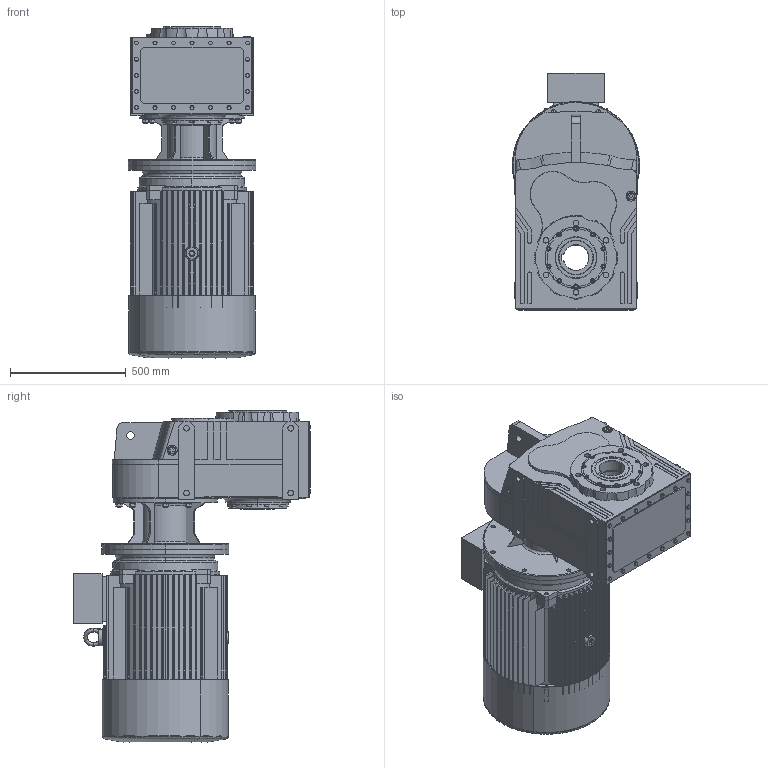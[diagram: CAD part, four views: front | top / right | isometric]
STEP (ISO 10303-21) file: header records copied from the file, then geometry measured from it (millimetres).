
FILE_DESCRIPTION (( 'STEP AP203' ), '1' );
FILE_NAME ('DV872-DV873-M3-280S.STEP', '2019-07-23T07:38:30', ( '' ), ( '' ), 'SwSTEP 2.0', 'SolidWorks 2012', '' );
FILE_SCHEMA (( 'CONFIG_CONTROL_DESIGN' ));
Products named in the file (13): Y2-280S-4,6 B5; 280ﾁｧ+ﾀ_-ｼ+､; DV872-DV873-M3-280S; Y2-280-4-ｦﾈﾁﾂ-ｩﾃ_-ｼ+､; Y2-280S+ｷﾎｨB5_-ｼ+､; Y2-280ｦｾﾂ-ｩﾃ_-ｼ+､; Y2-280S.M-4.6.8ﾍﾟ_-ｼ+､; Y2-280-4.6.8ﾀiﾍ_-ｼ+､; Ã¦Íß¦ð-Ô©ÃY2-280-4_-¼+¤; DN_87_3_0_A-B28_B5_ML23A_0_0_0_0_0_0_0_0_0_0_0_0_M1; 83B280B5_Varsayìlan; D873_Varsayìlan; ML23A_Varsayìlan
Assembly tree (12 placements, depth 3):
  DV872-DV873-M3-280S
    DN_87_3_0_A-B28_B5_ML23A_0_0_0_0_0_0_0_0_0_0_0_0_M1
      D873_Varsayìlan
      83B280B5_Varsayìlan
      ML23A_Varsayìlan
    Y2-280S-4,6 B5
      Ã¦Íß¦ð-Ô©ÃY2-280-4_-¼+¤
      Y2-280S.M-4.6.8ﾍﾟ_-ｼ+､
      Y2-280-4.6.8ﾀiﾍ_-ｼ+､
      Y2-280ｦｾﾂ-ｩﾃ_-ｼ+､
      Y2-280S+ｷﾎｨB5_-ｼ+､
      Y2-280-4-ｦﾈﾁﾂ-ｩﾃ_-ｼ+､
      280ﾁｧ+ﾀ_-ｼ+､
Bounding box: 550 x 1027.4 x 1434.03 mm (x, y, z)
Volume: 175395603.8 mm3; surface area: 10337509.2 mm2
Topology: 35 solids, 35 shells, 2418 faces, 6091 edges, 3891 vertices
Faces by surface type: plane 1259, cylinder 705, cone 360, bspline 90, torus 4
Entity records: 79097 total; most frequent: CARTESIAN_POINT 18855, DIRECTION 12570, ORIENTED_EDGE 12178, EDGE_CURVE 6089, AXIS2_PLACEMENT_3D 4688, VERTEX_POINT 3891, LINE 3194, VECTOR 3194
